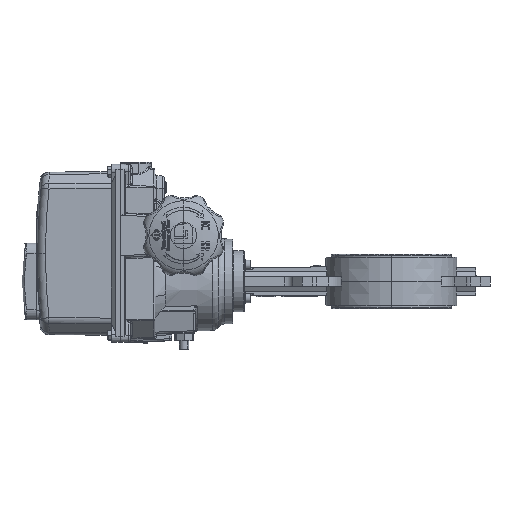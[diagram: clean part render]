
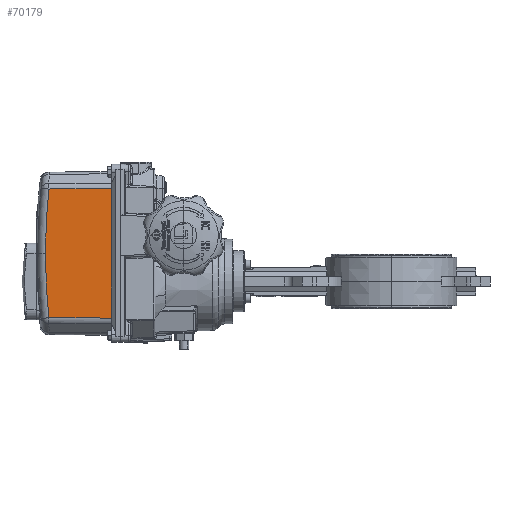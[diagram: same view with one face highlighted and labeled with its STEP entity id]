
A CAD part, left-side view. The second image highlights one B-rep face of the part: STEP entity #70179.
In plain terms, the highlighted planar face has unit normal (-1, 0.013, 0).
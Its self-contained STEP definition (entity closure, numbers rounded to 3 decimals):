
#5448 = CIRCLE ( 'NONE', #86653, 688.92 ) ;
#9496 = DIRECTION ( 'NONE',  ( 0.013, 1., 0. ) ) ;
#10133 = DIRECTION ( 'NONE',  ( -1., 0.013, 0. ) ) ;
#11889 = LINE ( 'NONE', #63636, #86191 ) ;
#13170 = CARTESIAN_POINT ( 'NONE',  ( -57.279, 298.7, -39.032 ) ) ;
#17614 = VERTEX_POINT ( 'NONE', #13170 ) ;
#19062 = EDGE_CURVE ( 'NONE', #71767, #70103, #59881, .T. ) ;
#20493 = CARTESIAN_POINT ( 'NONE',  ( -57.279, 298.7, -41.573 ) ) ;
#22060 = CARTESIAN_POINT ( 'NONE',  ( -56.388, 365.051, -38.663 ) ) ;
#24213 = LINE ( 'NONE', #20493, #48173 ) ;
#24559 = VERTEX_POINT ( 'NONE', #63724 ) ;
#24692 = FACE_OUTER_BOUND ( 'NONE', #76813, .T. ) ;
#26028 = ORIENTED_EDGE ( 'NONE', *, *, #39644, .T. ) ;
#29188 = ORIENTED_EDGE ( 'NONE', *, *, #19062, .T. ) ;
#31085 = CARTESIAN_POINT ( 'NONE',  ( -57.412, 288.733, -41.573 ) ) ;
#31212 = AXIS2_PLACEMENT_3D ( 'NONE', #40290, #10133, #9496 ) ;
#36887 = DIRECTION ( 'NONE',  ( -1., 0.013, 0. ) ) ;
#38172 = CARTESIAN_POINT ( 'NONE',  ( -57.413, 288.72, -39.088 ) ) ;
#38436 = EDGE_CURVE ( 'NONE', #70103, #17614, #88868, .T. ) ;
#39644 = EDGE_CURVE ( 'NONE', #17614, #64625, #24213, .T. ) ;
#40290 = CARTESIAN_POINT ( 'NONE',  ( -65.589, -320.385, 29.913 ) ) ;
#41312 = CARTESIAN_POINT ( 'NONE',  ( -57.279, 298.7, 98.858 ) ) ;
#44610 = DIRECTION ( 'NONE',  ( 0.013, 1., 0. ) ) ;
#46227 = EDGE_CURVE ( 'NONE', #24559, #71767, #5448, .T. ) ;
#48173 = VECTOR ( 'NONE', #98814, 1000. ) ;
#50197 = CARTESIAN_POINT ( 'NONE',  ( -56.342, 368.473, 29.913 ) ) ;
#52989 = VECTOR ( 'NONE', #69023, 1000. ) ;
#59881 = CIRCLE ( 'NONE', #31212, 688.92 ) ;
#60280 = AXIS2_PLACEMENT_3D ( 'NONE', #31085, #91023, #84672 ) ;
#63636 = CARTESIAN_POINT ( 'NONE',  ( -57.411, 288.826, 98.912 ) ) ;
#63724 = CARTESIAN_POINT ( 'NONE',  ( -56.388, 365.051, 98.489 ) ) ;
#64625 = VERTEX_POINT ( 'NONE', #41312 ) ;
#66017 = ORIENTED_EDGE ( 'NONE', *, *, #38436, .T. ) ;
#69023 = DIRECTION ( 'NONE',  ( -0.013, -1., -0.006 ) ) ;
#70103 = VERTEX_POINT ( 'NONE', #22060 ) ;
#70179 = ADVANCED_FACE ( 'NONE', ( #24692 ), #76989, .T. ) ;
#71054 = DIRECTION ( 'NONE',  ( 0.013, 1., -0.006 ) ) ;
#71767 = VERTEX_POINT ( 'NONE', #50197 ) ;
#76091 = CARTESIAN_POINT ( 'NONE',  ( -65.589, -320.385, 29.913 ) ) ;
#76813 = EDGE_LOOP ( 'NONE', ( #66017, #26028, #87512, #78387, #29188 ) ) ;
#76989 = PLANE ( 'NONE',  #60280 ) ;
#77056 = EDGE_CURVE ( 'NONE', #64625, #24559, #11889, .T. ) ;
#78387 = ORIENTED_EDGE ( 'NONE', *, *, #46227, .T. ) ;
#84672 = DIRECTION ( 'NONE',  ( 0.013, 1., 0. ) ) ;
#86191 = VECTOR ( 'NONE', #71054, 1000. ) ;
#86653 = AXIS2_PLACEMENT_3D ( 'NONE', #76091, #36887, #44610 ) ;
#87512 = ORIENTED_EDGE ( 'NONE', *, *, #77056, .T. ) ;
#88868 = LINE ( 'NONE', #38172, #52989 ) ;
#91023 = DIRECTION ( 'NONE',  ( -1., 0.013, 0. ) ) ;
#98814 = DIRECTION ( 'NONE',  ( 0., 0., 1. ) ) ;
